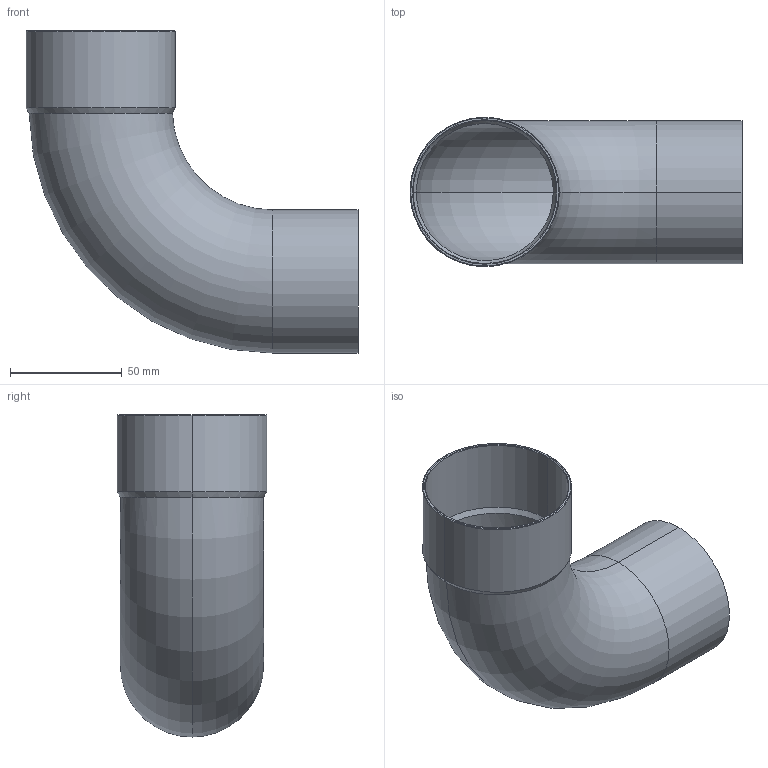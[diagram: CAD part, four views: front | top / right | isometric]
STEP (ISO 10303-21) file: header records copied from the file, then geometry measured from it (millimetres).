
FILE_DESCRIPTION((''),'2;1');
FILE_NAME('P:\Bouwmaten\z-maattekeningen 3D\5000\5001a\15001a64.stp','2005-10-04T14:55:14',('Kris'),(''),'Autodesk Inventor 8','Autodesk Inventor 8','');
FILE_SCHEMA(('AUTOMOTIVE_DESIGN { 1 0 10303 214 1 1 1 1 }'));
Length unit declared in the file: millimetre
Products named in the file (1): 15001a64
Bounding box: 148.4 x 66.8 x 144 mm (x, y, z)
Volume: 53946.9 mm3; surface area: 77584.2 mm2
Topology: 1 solids, 1 shells, 22 faces, 46 edges, 26 vertices
Faces by surface type: cone 8, cylinder 8, torus 4, plane 2
Entity records: 681 total; most frequent: CARTESIAN_POINT 173, DIRECTION 114, ORIENTED_EDGE 92, AXIS2_PLACEMENT_3D 49, EDGE_CURVE 46, VERTEX_POINT 26, CIRCLE 26, EDGE_LOOP 24
